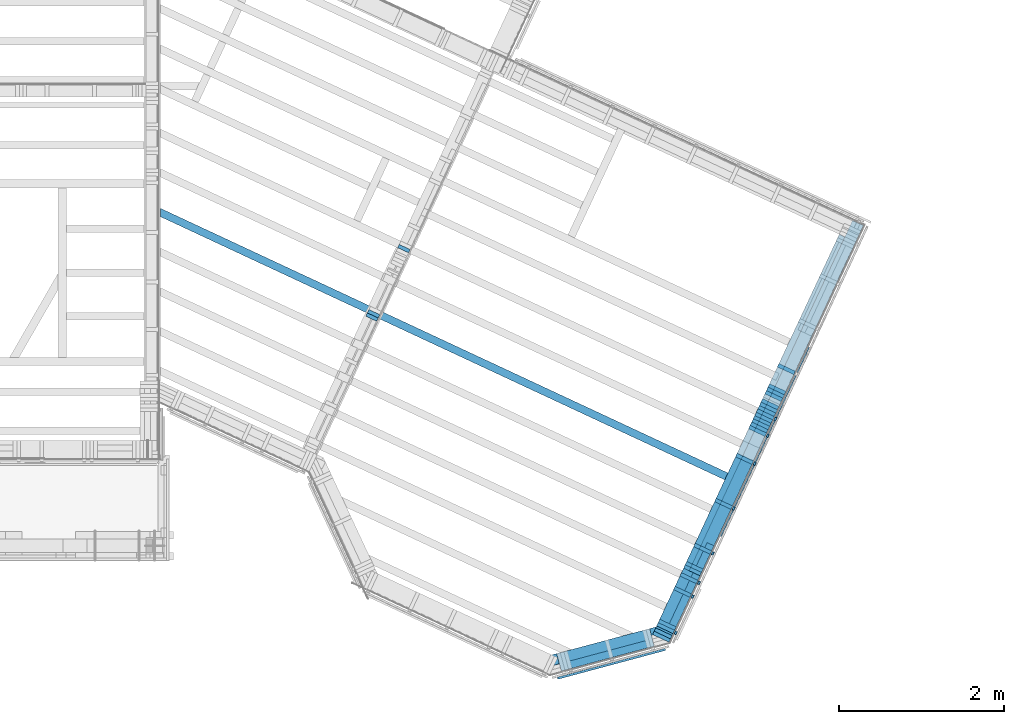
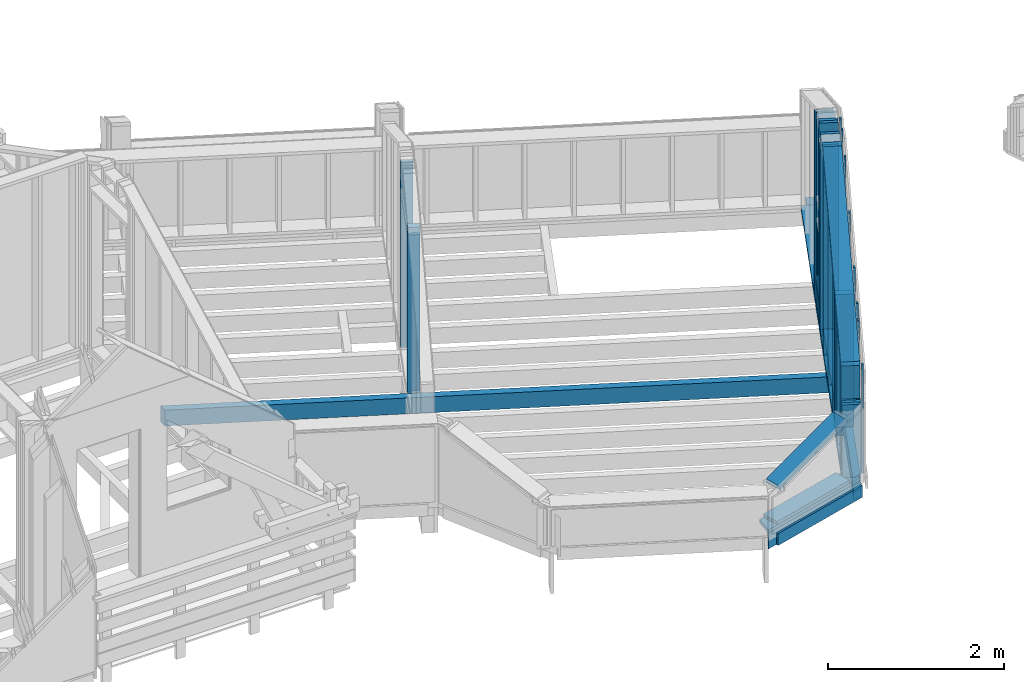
# One storey, part 8 of 24: 48 members.
"""IFC2X3 building model written with IfcOpenShell, lengths in metres."""

from ifc_helpers import new_model, si_unit, direction, frame, origin_with_axes, place, context, subcontext, project, spatial, faceted_brep, material, element, save


model = new_model("IFC2X3")

# Units and contexts
model_context = context("Model", 3, precision=1e-06, world=origin_with_axes(), true_north=direction((0.0, 1.0, 0.0)))
body_context = subcontext(model_context, "Body", "Model", "MODEL_VIEW")
ifc_project = project(units=[si_unit("LENGTHUNIT", "METRE"), si_unit("AREAUNIT", "SQUARE_METRE"), si_unit("VOLUMEUNIT", "CUBIC_METRE"), si_unit("PLANEANGLEUNIT", "RADIAN")], contexts=[model_context])

# Site, building, storey
site_placement = place(None, origin_with_axes())
site = spatial("IfcSite", under=ifc_project, at=site_placement, CompositionType="ELEMENT")
building_placement = place(site_placement, origin_with_axes())
building = spatial("IfcBuilding", under=site, at=building_placement, Name="Building 1", CompositionType="ELEMENT")
storey_placement = place(building_placement, origin_with_axes())
storey = spatial("IfcBuildingStorey", under=building, at=storey_placement, Name="Premier Etage", CompositionType="ELEMENT", Elevation=0.0)

# Members
ifc_material_1 = material(Name="Epicéa C24")
member_1_placement = place(storey_placement, frame((13.956408, 1.4464517, 5.6943053), z_axis=(0.9063078, -0.4226183, 0.0), x_axis=(0.0, 0.0, -1.0)))
element("IfcMember", 1, at=member_1_placement, inside=storey, material=ifc_material_1, Name="Montant", context=body_context, shape_type="Brep", body=[
    faceted_brep([(2.7993053, -0.0225, -0.11), (2.7993053, 0.0225, -0.11), (2.7993053, 0.0225, 0.11), (2.7993053, -0.0225, 0.11), (0.0, -0.0225, 0.11), (0.0, -0.0225, -0.11), (0.0, 0.0225, -0.11), (0.0, 0.0225, 0.11)], [[[0, 1, 2, 3]], [[0, 3, 4, 5]], [[1, 0, 5, 6]], [[2, 1, 6, 7]], [[3, 2, 7, 4]], [[4, 7, 6, 5]]]),
])
member_2_placement = place(storey_placement, frame((14.1913356, 1.9502556, 5.6183459), z_axis=(0.9063078, -0.4226183, 0.0), x_axis=(0.0, 0.0, -1.0)))
element("IfcMember", 2, at=member_2_placement, inside=storey, material=ifc_material_1, Name="Montant", context=body_context, shape_type="Brep", body=[
    faceted_brep([(0.0, -0.0225, -0.11), (0.0, -0.0225, 0.11), (0.0259808, 0.0225, 0.11), (0.0259808, 0.0225, -0.11), (2.7233459, -0.0225, 0.11), (2.7233459, 0.0225, 0.11), (2.7233459, -0.0225, -0.11), (2.7233459, 0.0225, -0.11)], [[[0, 1, 2, 3]], [[2, 1, 4, 5]], [[1, 0, 6, 4]], [[6, 7, 5, 4]], [[0, 3, 7, 6]], [[3, 2, 5, 7]]]),
])
member_3_placement = place(storey_placement, frame((12.8281718, -0.9730585, 3.8586408), z_axis=(0.9063078, -0.4226183, 0.0), x_axis=(0.0, 0.0, -1.0)))
element("IfcMember", 3, at=member_3_placement, inside=storey, material=ifc_material_1, Name="Montant", context=body_context, shape_type="Brep", body=[
    faceted_brep([(0.0, -0.0125954, 0.11), (1.0086408, -0.0125954, 0.11), (1.0086408, 0.0125954, 0.11), (0.0, 0.0125954, 0.11), (0.0, 0.0125954, -0.11), (1.0086408, 0.0125954, -0.11), (1.0086408, -0.0125954, -0.11), (0.0, -0.0125954, -0.11)], [[[0, 1, 2, 3]], [[4, 3, 2, 5]], [[6, 7, 4, 5]], [[1, 6, 5, 2]], [[0, 7, 6, 1]], [[7, 0, 3, 4]]]),
])
member_4_placement = place(storey_placement, frame((14.1532999, 1.8686879, 4.1103223), z_axis=(0.9063078, -0.4226183, 0.0), x_axis=(0.0, 0.0, -1.0)))
element("IfcMember", 4, at=member_4_placement, inside=storey, material=ifc_material_1, Name="Montant", context=body_context, shape_type="Brep", body=[
    faceted_brep([(0.0, -0.0225, -0.11), (0.0, -0.0225, 0.11), (0.0, 0.0225, 0.11), (0.0, 0.0225, -0.11), (1.2153223, -0.0225, 0.11), (1.2153223, 0.0225, 0.11), (1.2153223, -0.0225, -0.11), (1.2153223, 0.0225, -0.11)], [[[0, 1, 2, 3]], [[2, 1, 4, 5]], [[1, 0, 6, 4]], [[6, 7, 5, 4]], [[0, 3, 7, 6]], [[3, 2, 5, 7]]]),
])
member_5_placement = place(storey_placement, frame((13.5446808, 0.5634999, 5.2491602), z_axis=(0.9063078, -0.4226183, 0.0), x_axis=(0.0, 0.0, -1.0)))
element("IfcMember", 5, at=member_5_placement, inside=storey, material=ifc_material_1, Name="Montant", context=body_context, shape_type="Brep", body=[
    faceted_brep([(0.0259808, -0.0225, -0.11), (0.0259808, -0.0225, 0.11), (0.0, 0.0225, 0.11), (0.0, 0.0225, -0.11), (2.3541602, -0.0225, 0.11), (2.3541602, 0.0225, 0.11), (2.3541602, -0.0225, -0.11), (2.3541602, 0.0225, -0.11)], [[[0, 1, 2, 3]], [[2, 1, 4, 5]], [[1, 0, 6, 4]], [[6, 7, 5, 4]], [[0, 3, 7, 6]], [[3, 2, 5, 7]]]),
])
member_6_placement = place(storey_placement, frame((12.8334949, -0.9616432, 2.8725), z_axis=(-0.9063078, 0.4226183, 0.0), x_axis=(0.4226183, 0.9063078, 0.0)))
element("IfcMember", 6, at=member_6_placement, inside=storey, material=ifc_material_1, Name="Montant", context=body_context, shape_type="Brep", body=[
    faceted_brep([(0.0, 0.0225, -0.11), (5.2330115, 0.0225, -0.11), (5.2330115, -0.0225, -0.11), (0.0, -0.0225, -0.11), (5.2330115, -0.0225, 0.11), (0.0, -0.0225, 0.11), (5.2330115, 0.0225, 0.11), (0.0, 0.0225, 0.11)], [[[0, 1, 2, 3]], [[3, 2, 4, 5]], [[4, 2, 1, 6]], [[7, 6, 1, 0]], [[5, 4, 6, 7]], [[5, 7, 0, 3]]]),
])
member_7_placement = place(storey_placement, frame((14.0688244, 1.6875296, 5.6943053), z_axis=(0.9063078, -0.4226183, 0.0), x_axis=(0.0, 0.0, -1.0)))
element("IfcMember", 7, at=member_7_placement, inside=storey, material=ifc_material_1, Name="Montant", context=body_context, shape_type="Brep", body=[
    faceted_brep([(2.7993053, -0.0225, -0.11), (2.7993053, 0.0225, -0.11), (2.7993053, 0.0225, 0.11), (2.7993053, -0.0225, 0.11), (0.0, -0.0225, 0.11), (0.0, -0.0225, -0.11), (0.0, 0.0225, -0.11), (0.0, 0.0225, 0.11)], [[[0, 1, 2, 3]], [[0, 3, 4, 5]], [[1, 0, 5, 6]], [[2, 1, 6, 7]], [[3, 2, 7, 4]], [[4, 7, 6, 5]]]),
])
member_8_placement = place(storey_placement, frame((9.6745801, 3.6532944, 5.4693053), z_axis=(0.9063078, -0.4226183, 0.0), x_axis=(0.0, 0.0, -1.0)))
element("IfcMember", 8, at=member_8_placement, inside=storey, material=ifc_material_1, Name="Montant", context=body_context, shape_type="Brep", body=[
    faceted_brep([(2.5743053, -0.0225, -0.0725), (2.5743053, 0.0225, -0.0725), (2.5743053, 0.0225, 0.0725), (2.5743053, -0.0225, 0.0725), (0.0, -0.0225, 0.0725), (0.0, -0.0225, -0.0725), (0.0, 0.0225, -0.0725), (0.0, 0.0225, 0.0725)], [[[0, 1, 2, 3]], [[0, 3, 4, 5]], [[1, 0, 5, 6]], [[2, 1, 6, 7]], [[3, 2, 7, 4]], [[4, 7, 6, 5]]]),
])
member_9_placement = place(storey_placement, frame((13.4134614, -0.0373383, 4.9301742), z_axis=(0.9063078, -0.4226183, 0.0), x_axis=(0.0, 0.0, -1.0)))
element("IfcMember", 9, at=member_9_placement, inside=storey, material=ifc_material_1, Name="latte 27/40", context=body_context, shape_type="Brep", body=[
    faceted_brep([(1.1938921, 0.02, -0.012), (1.1938921, 0.02, 0.012), (1.1938921, -0.02, 0.012), (1.1938921, -0.02, -0.012), (0.0, 0.02, 0.012), (0.0, 0.02, -0.012), (0.0, -0.02, -0.012), (0.0, -0.02, 0.012)], [[[0, 1, 2, 3]], [[4, 5, 6, 7]], [[3, 6, 5, 0]], [[2, 7, 6, 3]], [[1, 4, 7, 2]], [[0, 5, 4, 1]]]),
])
member_10_placement = place(storey_placement, frame((13.2911098, 0.0197152, 4.90275), z_axis=(0.9063078, -0.4226183, 0.0), x_axis=(0.0, 0.0, -1.0)))
element("IfcMember", 10, at=member_10_placement, inside=storey, material=ifc_material_1, Name="Montant", context=body_context, shape_type="Brep", body=[
    faceted_brep([(2.00775, -0.0225, 0.11), (2.00775, 0.0225, 0.11), (0.0, 0.0225, 0.11), (0.0259808, -0.0225, 0.11), (0.0259808, -0.0225, -0.11), (0.0, 0.0225, -0.11), (2.00775, -0.0225, -0.11), (2.00775, 0.0225, -0.11)], [[[0, 1, 2, 3]], [[4, 3, 2, 5]], [[3, 4, 6, 0]], [[6, 7, 1, 0]], [[4, 5, 7, 6]], [[5, 2, 1, 7]]]),
])
ifc_material_2 = material(Name="NH II")
member_11_placement = place(storey_placement, frame((13.3674842, 0.0841201, 2.665), z_axis=(0.0, 0.0, -1.0), x_axis=(0.4226183, 0.9063078, 0.0)))
element("IfcMember", 11, at=member_11_placement, inside=storey, material=ifc_material_2, Name="Poutre Lc", context=body_context, shape_type="Brep", body=[
    faceted_brep([(2.7998241, -0.1, -0.14), (2.7998241, -0.1, 0.14), (0.0, -0.1, 0.14), (0.0, -0.1, -0.14), (2.7998241, 0.08, -0.14), (0.0, 0.08, -0.14), (0.135, 0.08, -0.14), (0.135, 0.1, -0.14), (2.6648241, 0.1, -0.14), (2.6648241, 0.08, -0.14), (0.0, 0.08, 0.14), (0.135, 0.08, 0.14), (2.7998241, 0.08, 0.14), (2.6648241, 0.08, 0.14), (2.6648241, 0.1, 0.14), (0.135, 0.1, 0.14)], [[[0, 1, 2, 3]], [[4, 0, 3, 5, 6, 7, 8, 9]], [[5, 10, 11, 6]], [[1, 12, 13, 14, 15, 11, 10, 2]], [[12, 4, 9, 13]], [[14, 8, 7, 15]], [[9, 8, 14, 13]], [[7, 6, 11, 15]], [[12, 1, 0, 4]], [[2, 10, 5, 3]]]),
])
member_12_placement = place(storey_placement, frame((14.0878422, 1.7283134, 4.1103223), z_axis=(0.9063078, -0.4226183, 0.0), x_axis=(0.0, 0.0, -1.0)))
element("IfcMember", 12, at=member_12_placement, inside=storey, material=ifc_material_1, Name="Montant", context=body_context, shape_type="Brep", body=[
    faceted_brep([(0.0, -0.0225, -0.11), (0.0, -0.0225, 0.11), (0.0, 0.0225, 0.11), (0.0, 0.0225, -0.11), (1.2153223, -0.0225, 0.11), (1.2153223, 0.0225, 0.11), (1.2153223, -0.0225, -0.11), (1.2153223, 0.0225, -0.11)], [[[0, 1, 2, 3]], [[2, 1, 4, 5]], [[1, 0, 6, 4]], [[6, 7, 5, 4]], [[0, 3, 7, 6]], [[3, 2, 5, 7]]]),
])
member_13_placement = place(storey_placement, frame((14.0498066, 1.6467457, 5.6943053), z_axis=(0.9063078, -0.4226183, 0.0), x_axis=(0.0, 0.0, -1.0)))
element("IfcMember", 13, at=member_13_placement, inside=storey, material=ifc_material_1, Name="Montant", context=body_context, shape_type="Brep", body=[
    faceted_brep([(2.7993053, -0.0225, -0.11), (2.7993053, 0.0225, -0.11), (2.7993053, 0.0225, 0.11), (2.7993053, -0.0225, 0.11), (0.0, -0.0225, 0.11), (0.0, -0.0225, -0.11), (0.0, 0.0225, -0.11), (0.0, 0.0225, 0.11)], [[[0, 1, 2, 3]], [[0, 3, 4, 5]], [[1, 0, 5, 6]], [[2, 1, 6, 7]], [[3, 2, 7, 4]], [[4, 7, 6, 5]]]),
])
member_14_placement = place(storey_placement, frame((13.047893, -0.5018649, 4.570485), z_axis=(0.9063078, -0.4226183, 0.0), x_axis=(0.0, 0.0, -1.0)))
element("IfcMember", 14, at=member_14_placement, inside=storey, material=ifc_material_1, Name="Montant", context=body_context, shape_type="Brep", body=[
    faceted_brep([(0.0259808, -0.0225, -0.11), (0.0259808, -0.0225, 0.11), (0.0, 0.0225, 0.11), (0.0, 0.0225, -0.11), (1.675485, -0.0225, 0.11), (1.675485, 0.0225, 0.11), (1.675485, -0.0225, -0.11), (1.675485, 0.0225, -0.11)], [[[0, 1, 2, 3]], [[2, 1, 4, 5]], [[1, 0, 6, 4]], [[6, 7, 5, 4]], [[0, 3, 7, 6]], [[3, 2, 5, 7]]]),
])
member_15_placement = place(storey_placement, frame((11.4153503, -1.3923085, 2.8275), z_axis=(0.258819, -0.9659258, 0.0), x_axis=(0.9659258, 0.258819, 0.0)))
element("IfcMember", 15, at=member_15_placement, inside=storey, material=ifc_material_1, Name="Lisse basse", context=body_context, shape_type="Brep", body=[
    faceted_brep([(0.0, 0.0225, 0.11), (0.0800735, 0.0225, -0.11), (0.0800735, -0.0225, -0.11), (0.0, -0.0225, 0.11), (1.3889208, 0.0225, -0.11), (1.3889208, -0.0225, -0.11), (1.4915085, 0.0225, 0.11), (1.4915085, -0.0225, 0.11)], [[[0, 1, 2, 3]], [[2, 1, 4, 5]], [[1, 0, 6, 4]], [[6, 7, 5, 4]], [[3, 2, 5, 7]], [[6, 0, 3, 7]]]),
])
member_16_placement = place(storey_placement, frame((13.1883955, -0.2005562, 4.7624293), z_axis=(0.9063078, -0.4226183, 0.0), x_axis=(0.0, 0.0, -1.0)))
element("IfcMember", 16, at=member_16_placement, inside=storey, material=ifc_material_1, Name="Montant", context=body_context, shape_type="Brep", body=[
    faceted_brep([(0.0, 0.0225, -0.11), (0.0259808, -0.0225, -0.11), (0.0259808, -0.0225, 0.11), (0.0, 0.0225, 0.11), (1.8674293, -0.0225, -0.11), (1.8674293, -0.0225, 0.11), (1.8674293, 0.0225, -0.11), (1.8674293, 0.0225, 0.11)], [[[0, 1, 2, 3]], [[2, 1, 4, 5]], [[1, 0, 6, 4]], [[0, 3, 7, 6]], [[3, 2, 5, 7]], [[4, 6, 7, 5]]]),
])
member_17_placement = place(storey_placement, frame((13.9944436, 1.5280194, 5.4543053), z_axis=(0.9063078, -0.4226183, 0.0), x_axis=(0.0, 0.0, -1.0)))
element("IfcMember", 17, at=member_17_placement, inside=storey, material=ifc_material_1, Name="Montant", context=body_context, shape_type="Brep", body=[
    faceted_brep([(2.5593053, -0.0225, 0.11), (2.5593053, -0.0225, -0.11), (2.5593053, 0.0225, -0.11), (2.5593053, 0.0225, 0.11), (0.0, -0.0225, -0.11), (0.0, 0.0225, -0.11), (0.0, -0.0225, 0.11), (0.0, 0.0225, 0.11)], [[[0, 1, 2, 3]], [[2, 1, 4, 5]], [[1, 0, 6, 4]], [[3, 2, 5, 7]], [[0, 3, 7, 6]], [[6, 7, 5, 4]]]),
])
member_18_placement = place(storey_placement, frame((14.1068601, 1.7690973, 4.1103223), z_axis=(0.9063078, -0.4226183, 0.0), x_axis=(0.0, 0.0, -1.0)))
element("IfcMember", 18, at=member_18_placement, inside=storey, material=ifc_material_1, Name="Montant", context=body_context, shape_type="Brep", body=[
    faceted_brep([(0.0, -0.0225, -0.11), (0.0, -0.0225, 0.11), (0.0, 0.0225, 0.11), (0.0, 0.0225, -0.11), (1.2153223, -0.0225, 0.11), (1.2153223, 0.0225, 0.11), (1.2153223, -0.0225, -0.11), (1.2153223, 0.0225, -0.11)], [[[0, 1, 2, 3]], [[2, 1, 4, 5]], [[1, 0, 6, 4]], [[6, 7, 5, 4]], [[0, 3, 7, 6]], [[3, 2, 5, 7]]]),
])
member_19_placement = place(storey_placement, frame((11.4319148, -1.4541277, 2.695), z_axis=(0.0, 0.0, -1.0), x_axis=(0.9659258, 0.258819, 0.0)))
element("IfcMember", 19, at=member_19_placement, inside=storey, material=ifc_material_2, Name="Ceinture", context=body_context, shape_type="Brep", body=[
    faceted_brep([(1.371411, 0.046, 0.0), (1.4486082, -0.046, 0.0), (1.5687056, -0.046, 0.0), (1.4915085, 0.046, 0.0), (1.4486082, -0.046, 0.11), (1.371411, 0.046, 0.11), (1.4915085, 0.046, -0.11), (0.0, 0.046, -0.11), (0.0, 0.046, 0.11), (1.5687056, -0.046, -0.11), (0.0771972, -0.046, -0.11), (0.0771972, -0.046, 0.11)], [[[0, 1, 2, 3]], [[4, 1, 0, 5]], [[5, 0, 3, 6, 7, 8]], [[3, 2, 9, 6]], [[6, 9, 10, 7]], [[1, 4, 11, 10, 9, 2]], [[4, 5, 8, 11]], [[11, 8, 7, 10]]]),
])
member_20_placement = place(storey_placement, frame((13.1248126, -0.3369103, 4.6755669), z_axis=(0.9063078, -0.4226183, 0.0), x_axis=(0.0, 0.0, -1.0)))
element("IfcMember", 20, at=member_20_placement, inside=storey, material=ifc_material_1, Name="Montant", context=body_context, shape_type="Brep", body=[
    faceted_brep([(0.0, 0.0225, -0.11), (0.0259808, -0.0225, -0.11), (0.0259808, -0.0225, 0.11), (0.0, 0.0225, 0.11), (1.7805669, -0.0225, -0.11), (1.7805669, -0.0225, 0.11), (1.7805669, 0.0225, -0.11), (1.7805669, 0.0225, 0.11)], [[[0, 1, 2, 3]], [[2, 1, 4, 5]], [[1, 0, 6, 4]], [[0, 3, 7, 6]], [[3, 2, 5, 7]], [[4, 6, 7, 5]]]),
])
member_21_placement = place(storey_placement, frame((12.8101919, -1.1630535, 2.695), z_axis=(0.0, 0.0, -1.0), x_axis=(0.4226183, 0.9063078, 0.0)))
element("IfcMember", 21, at=member_21_placement, inside=storey, material=ifc_material_2, Name="Ceinture", context=body_context, shape_type="Brep", body=[
    faceted_brep([(0.1200975, -0.046, -0.11), (0.1200975, -0.046, 0.0), (0.1972946, 0.046, 0.0), (0.1972946, 0.046, -0.11), (0.0, -0.046, 0.0), (0.0771972, 0.046, 0.0), (1.273845, -0.046, -0.11), (1.273845, -0.046, 0.0), (1.365845, -0.046, 0.0), (1.365845, -0.046, 0.11), (0.0, -0.046, 0.11), (1.273845, 0.046, -0.11), (1.273845, 0.046, 0.0), (1.365845, 0.046, 0.0), (1.365845, 0.046, 0.11), (0.0771972, 0.046, 0.11)], [[[0, 1, 2, 3]], [[1, 4, 5, 2]], [[4, 1, 0, 6, 7, 8, 9, 10]], [[0, 3, 11, 6]], [[6, 11, 12, 7]], [[8, 7, 12, 13]], [[8, 13, 14, 9]], [[2, 5, 15, 14, 13, 12, 11, 3]], [[9, 14, 15, 10]], [[5, 4, 10, 15]]]),
])
member_22_placement = place(storey_placement, frame((11.5878501, -1.3460873, 3.331884), z_axis=(-0.258819, 0.9659258, 0.0), x_axis=(0.9055763, 0.2426485, 0.347927)))
element("IfcMember", 22, at=member_22_placement, inside=storey, material=ifc_material_1, Name="Montant", context=body_context, shape_type="Brep", body=[
    faceted_brep([(0.0, 0.0225, 0.11), (0.0, 0.0225, -0.11), (0.0167001, -0.0225, -0.11), (0.0167001, -0.0225, 0.11), (1.1466402, 0.0225, -0.11), (1.1633403, -0.0225, -0.11), (1.1466402, 0.0225, 0.11), (1.1633403, -0.0225, 0.11)], [[[0, 1, 2, 3]], [[2, 1, 4, 5]], [[1, 0, 6, 4]], [[5, 4, 6, 7]], [[3, 2, 5, 7]], [[0, 3, 7, 6]]]),
])
member_23_placement = place(storey_placement, frame((12.7848131, -1.0660415, 2.8275), z_axis=(0.9063078, -0.4226183, 0.0), x_axis=(0.4226183, 0.9063078, 0.0)))
element("IfcMember", 23, at=member_23_placement, inside=storey, material=ifc_material_1, Name="Lisse basse", context=body_context, shape_type="Brep", body=[
    faceted_brep([(0.8874573, -0.0225, -0.11), (0.8874573, 0.0225, -0.11), (0.8874573, 0.0225, 0.11), (0.8874573, -0.0225, 0.11), (0.1025877, 0.0225, -0.11), (0.0, 0.0225, 0.11), (0.1025877, -0.0225, -0.11), (0.0, -0.0225, 0.11)], [[[0, 1, 2, 3]], [[2, 1, 4, 5]], [[1, 0, 6, 4]], [[5, 4, 6, 7]], [[3, 2, 5, 7]], [[0, 3, 7, 6]]]),
])
member_24_placement = place(storey_placement, frame((11.5519451, -1.355708, 2.8725), z_axis=(-0.258819, 0.9659258, 0.0), x_axis=(0.9659258, 0.258819, 0.0)))
element("IfcMember", 24, at=member_24_placement, inside=storey, material=ifc_material_1, Name="Montant", context=body_context, shape_type="Brep", body=[
    faceted_brep([(1.165, 0.0225, 0.11), (1.165, -0.0225, 0.11), (1.165, -0.0225, -0.11), (1.165, 0.0225, -0.11), (0.0, -0.0225, -0.11), (0.0, -0.0225, 0.11), (0.0, 0.0225, -0.11), (0.0, 0.0225, 0.11)], [[[0, 1, 2, 3]], [[4, 2, 1, 5]], [[6, 3, 2, 4]], [[7, 0, 3, 6]], [[5, 1, 0, 7]], [[5, 7, 6, 4]]]),
])
member_25_placement = place(storey_placement, frame((13.1702445, -0.5589184, 4.5979091), z_axis=(0.9063078, -0.4226183, 0.0), x_axis=(0.0, 0.0, -1.0)))
element("IfcMember", 25, at=member_25_placement, inside=storey, material=ifc_material_1, Name="latte 27/40", context=body_context, shape_type="Brep", body=[
    faceted_brep([(1.7879091, 0.02, -0.012), (1.7879091, 0.02, 0.012), (1.7879091, -0.02, 0.012), (1.7879091, -0.02, -0.012), (0.0, 0.02, 0.012), (0.0, 0.02, -0.012), (0.0, -0.02, -0.012), (0.0, -0.02, 0.012)], [[[0, 1, 2, 3]], [[4, 5, 6, 7]], [[3, 6, 5, 0]], [[2, 7, 6, 3]], [[1, 4, 7, 2]], [[0, 5, 4, 1]]]),
])
member_26_placement = place(storey_placement, frame((12.794322, -1.0456496, 3.8586408), z_axis=(0.9063078, -0.4226183, 0.0), x_axis=(0.0, 0.0, -1.0)))
element("IfcMember", 26, at=member_26_placement, inside=storey, material=ifc_material_1, Name="Montant", context=body_context, shape_type="Brep", body=[
    faceted_brep([(0.0, -0.0225, 0.11), (0.0, -0.0225, -0.11), (1.0086408, -0.0225, -0.11), (1.0086408, -0.0225, 0.11), (0.0, 0.0225, 0.11), (1.0086408, 0.0225, 0.11), (0.0, 0.0225, -0.11), (1.0086408, 0.0225, -0.11)], [[[0, 1, 2, 3]], [[4, 0, 3, 5]], [[6, 4, 5, 7]], [[1, 6, 7, 2]], [[0, 4, 6, 1]], [[2, 7, 5, 3]]]),
])
member_27_placement = place(storey_placement, frame((14.0126162, 1.5669907, 5.4543053), z_axis=(0.9063078, -0.4226183, 0.0), x_axis=(0.0, 0.0, -1.0)))
element("IfcMember", 27, at=member_27_placement, inside=storey, material=ifc_material_1, Name="Montant", context=body_context, shape_type="Brep", body=[
    faceted_brep([(2.5593053, -0.0205, -0.11), (2.5593053, -0.0205, 0.11), (0.0, -0.0205, 0.11), (0.0, -0.0205, -0.11), (2.5593053, 0.0205, 0.11), (0.0, 0.0205, 0.11), (2.5593053, 0.0205, -0.11), (0.0, 0.0205, -0.11)], [[[0, 1, 2, 3]], [[2, 1, 4, 5]], [[1, 0, 6, 4]], [[0, 3, 7, 6]], [[4, 6, 7, 5]], [[3, 2, 5, 7]]]),
])
for number, where, z_axis, x_axis, name in (
    (28, (13.9754258, 1.4872356, 5.4543053), (0.9063078, -0.4226183, 0.0), (0.0, 0.0, -1.0), "Montant"),
    (29, (14.0307888, 1.6059619, 5.4543053), (0.9063078, -0.4226183, 0.0), (0.0, 0.0, -1.0), "Montant"),
):
    element("IfcMember", number, at=place(storey_placement, frame(where, z_axis=z_axis, x_axis=x_axis)), inside=storey, material=ifc_material_1, Name=name, context=body_context, shape_type="Brep", body=[
        faceted_brep([(2.5593053, -0.0225, 0.11), (2.5593053, -0.0225, -0.11), (2.5593053, 0.0225, -0.11), (2.5593053, 0.0225, 0.11), (0.0, -0.0225, -0.11), (0.0, 0.0225, -0.11), (0.0, -0.0225, 0.11), (0.0, 0.0225, 0.11)], [[[0, 1, 2, 3]], [[2, 1, 4, 5]], [[1, 0, 6, 4]], [[3, 2, 5, 7]], [[0, 3, 7, 6]], [[6, 7, 5, 4]]]),
    ])
member_28_placement = place(storey_placement, frame((14.1723177, 1.9094717, 4.1103223), z_axis=(0.9063078, -0.4226183, 0.0), x_axis=(0.0, 0.0, -1.0)))
element("IfcMember", 30, at=member_28_placement, inside=storey, material=ifc_material_1, Name="Montant", context=body_context, shape_type="Brep", body=[
    faceted_brep([(0.0, -0.0225, -0.11), (0.0, -0.0225, 0.11), (0.0, 0.0225, 0.11), (0.0, 0.0225, -0.11), (1.2153223, -0.0225, 0.11), (1.2153223, 0.0225, 0.11), (1.2153223, -0.0225, -0.11), (1.2153223, 0.0225, -0.11)], [[[0, 1, 2, 3]], [[2, 1, 4, 5]], [[1, 0, 6, 4]], [[6, 7, 5, 4]], [[0, 3, 7, 6]], [[3, 2, 5, 7]]]),
])
member_29_placement = place(storey_placement, frame((14.3053936, 2.1948539, 5.4625281), z_axis=(0.9063078, -0.4226183, 0.0), x_axis=(0.0, 0.0, -1.0)))
element("IfcMember", 31, at=member_29_placement, inside=storey, material=ifc_material_1, Name="Montant", context=body_context, shape_type="Brep", body=[
    faceted_brep([(2.5675281, -0.0225, 0.11), (2.5675281, 0.0225, 0.11), (0.0259808, 0.0225, 0.11), (0.0, -0.0225, 0.11), (0.0, -0.0225, -0.11), (0.0259808, 0.0225, -0.11), (2.5675281, -0.0225, -0.11), (2.5675281, 0.0225, -0.11)], [[[0, 1, 2, 3]], [[4, 3, 2, 5]], [[3, 4, 6, 0]], [[6, 7, 1, 0]], [[4, 5, 7, 6]], [[5, 2, 1, 7]]]),
])
member_30_placement = place(storey_placement, frame((13.2471641, -0.3939638, 4.702991), z_axis=(0.9063078, -0.4226183, 0.0), x_axis=(0.0, 0.0, -1.0)))
element("IfcMember", 32, at=member_30_placement, inside=storey, material=ifc_material_1, Name="latte 27/40", context=body_context, shape_type="Brep", body=[
    faceted_brep([(1.892991, 0.02, -0.012), (1.892991, 0.02, 0.012), (1.892991, -0.02, 0.012), (1.892991, -0.02, -0.012), (0.0, 0.02, 0.012), (0.0, 0.02, -0.012), (0.0, -0.02, -0.012), (0.0, -0.02, 0.012)], [[[0, 1, 2, 3]], [[4, 5, 6, 7]], [[3, 6, 5, 0]], [[2, 7, 6, 3]], [[1, 4, 7, 2]], [[0, 5, 4, 1]]]),
])
member_31_placement = place(storey_placement, frame((13.9206033, 1.0502311, 5.6229945), z_axis=(0.9063078, -0.4226183, 0.0), x_axis=(0.0, 0.0, -1.0)))
element("IfcMember", 33, at=member_31_placement, inside=storey, material=ifc_material_1, Name="latte 27/40", context=body_context, shape_type="Brep", body=[
    faceted_brep([(1.258804, 0.02, -0.012), (1.258804, 0.02, 0.012), (1.258804, -0.02, 0.012), (1.258804, -0.02, -0.012), (0.0, 0.02, 0.012), (0.0, 0.02, -0.012), (0.0, -0.02, -0.012), (0.0, -0.02, 0.012)], [[[0, 1, 2, 3]], [[4, 5, 6, 7]], [[3, 6, 5, 0]], [[2, 7, 6, 3]], [[1, 4, 7, 2]], [[0, 5, 4, 1]]]),
])
member_32_placement = place(storey_placement, frame((11.5338649, -1.5484552, 2.7225), z_axis=(0.0, 0.0, -1.0), x_axis=(0.9659258, 0.258819, 0.0)))
element("IfcMember", 34, at=member_32_placement, inside=storey, material=ifc_material_2, Name="contre poutre", context=body_context, shape_type="Brep", body=[
    faceted_brep([(1.3520821, 0.0135, -0.0825), (1.3520821, 0.0135, 0.0825), (1.3520821, -0.0135, 0.0825), (1.3520821, -0.0135, -0.0825), (0.0, 0.0135, 0.0825), (0.0, 0.0135, -0.0825), (0.0, -0.0135, -0.0825), (0.0, -0.0135, 0.0825)], [[[0, 1, 2, 3]], [[4, 5, 6, 7]], [[3, 6, 5, 0]], [[2, 7, 6, 3]], [[1, 4, 7, 2]], [[0, 5, 4, 1]]]),
])
member_33_placement = place(storey_placement, frame((14.0787595, 1.3893983, 5.7393053), z_axis=(0.9063078, -0.4226183, 0.0), x_axis=(0.0, 0.0, -1.0)))
element("IfcMember", 35, at=member_33_placement, inside=storey, material=ifc_material_1, Name="latte 27/40", context=body_context, shape_type="Brep", body=[
    faceted_brep([(1.1792965, 0.02, -0.012), (1.1792965, 0.02, 0.012), (1.1792965, -0.02, 0.012), (1.1792965, -0.02, -0.012), (0.0, 0.02, 0.012), (0.0, 0.02, -0.012), (0.0, -0.02, -0.012), (0.0, -0.02, 0.012)], [[[0, 1, 2, 3]], [[4, 5, 6, 7]], [[3, 6, 5, 0]], [[2, 7, 6, 3]], [[1, 4, 7, 2]], [[0, 5, 4, 1]]]),
])
member_34_placement = place(storey_placement, frame((12.9653553, -0.9983047, 4.3180044), z_axis=(0.9063078, -0.4226183, 0.0), x_axis=(0.0, 0.0, -1.0)))
element("IfcMember", 36, at=member_34_placement, inside=storey, material=ifc_material_1, Name="latte 27/40", context=body_context, shape_type="Brep", body=[
    faceted_brep([(1.5080044, 0.02, -0.012), (1.5080044, 0.02, 0.012), (1.5080044, -0.02, 0.012), (1.5080044, -0.02, -0.012), (0.0, 0.02, 0.012), (0.0, 0.02, -0.012), (0.0, -0.02, -0.012), (0.0, -0.02, 0.012)], [[[0, 1, 2, 3]], [[4, 5, 6, 7]], [[3, 6, 5, 0]], [[2, 7, 6, 3]], [[1, 4, 7, 2]], [[0, 5, 4, 1]]]),
])
member_35_placement = place(storey_placement, frame((12.8430038, -0.9412512, 4.3425418), z_axis=(0.9063078, -0.4226183, 0.0), x_axis=(0.0, 0.0, -1.0)))
element("IfcMember", 37, at=member_35_placement, inside=storey, material=ifc_material_1, Name="Montant", context=body_context, shape_type="Brep", body=[
    faceted_brep([(0.0259808, -0.0225, -0.11), (0.0259808, -0.0225, 0.11), (0.0, 0.0225, 0.11), (0.0, 0.0225, -0.11), (1.4475418, -0.0225, 0.11), (1.4475418, 0.0225, 0.11), (1.4475418, -0.0225, -0.11), (1.4475418, 0.0225, -0.11)], [[[0, 1, 2, 3]], [[2, 1, 4, 5]], [[1, 0, 6, 4]], [[0, 3, 7, 6]], [[3, 2, 5, 7]], [[6, 7, 5, 4]]]),
])
member_36_placement = place(storey_placement, frame((12.8620216, -0.9004674, 4.316561), z_axis=(0.9063078, -0.4226183, 0.0), x_axis=(0.0, 0.0, -1.0)))
element("IfcMember", 38, at=member_36_placement, inside=storey, material=ifc_material_1, Name="Montant", context=body_context, shape_type="Brep", body=[
    faceted_brep([(0.0, 0.0225, -0.11), (0.0259808, -0.0225, -0.11), (0.0259808, -0.0225, 0.11), (0.0, 0.0225, 0.11), (1.421561, -0.0225, -0.11), (1.421561, -0.0225, 0.11), (1.421561, 0.0225, -0.11), (1.421526, 0.0225, 0.11)], [[[0, 1, 2, 3]], [[2, 1, 4, 5]], [[1, 0, 6, 4]], [[0, 3, 7, 6]], [[3, 2, 5, 7]], [[4, 6, 7, 5]]]),
])
member_37_placement = place(storey_placement, frame((12.8133399, -1.0048657, 3.8586408), z_axis=(0.9063078, -0.4226183, 0.0), x_axis=(0.0, 0.0, -1.0)))
element("IfcMember", 39, at=member_37_placement, inside=storey, material=ifc_material_1, Name="Montant", context=body_context, shape_type="Brep", body=[
    faceted_brep([(0.0, -0.0225, 0.11), (0.0, -0.0225, -0.11), (1.0086408, -0.0225, -0.11), (1.0086408, -0.0225, 0.11), (0.0, 0.0225, 0.11), (1.0086408, 0.0225, 0.11), (0.0, 0.0225, -0.11), (1.0086408, 0.0225, -0.11)], [[[0, 1, 2, 3]], [[4, 0, 3, 5]], [[6, 4, 5, 7]], [[1, 6, 7, 2]], [[0, 4, 6, 1]], [[2, 7, 5, 3]]]),
])
member_38_placement = place(storey_placement, frame((13.1693777, -0.2413401, 4.7364485), z_axis=(0.9063078, -0.4226183, 0.0), x_axis=(0.0, 0.0, -1.0)))
element("IfcMember", 40, at=member_38_placement, inside=storey, material=ifc_material_1, Name="Montant", context=body_context, shape_type="Brep", body=[
    faceted_brep([(0.0, 0.0225, -0.11), (0.0259808, -0.0225, -0.11), (0.0259808, -0.0225, 0.11), (0.0, 0.0225, 0.11), (1.8414485, -0.0225, -0.11), (1.8414485, -0.0225, 0.11), (1.8414485, 0.0225, -0.11), (1.8414485, 0.0225, 0.11)], [[[0, 1, 2, 3]], [[2, 1, 4, 5]], [[1, 0, 6, 4]], [[0, 3, 7, 6]], [[3, 2, 5, 7]], [[4, 6, 7, 5]]]),
])
member_39_placement = place(storey_placement, frame((12.8477582, -0.9310553, 4.3100658), z_axis=(-0.9063078, 0.4226183, 0.0), x_axis=(0.3659982, 0.7848856, 0.5)))
element("IfcMember", 41, at=member_39_placement, inside=storey, material=ifc_material_1, Name="Montant", context=body_context, shape_type="Brep", body=[
    faceted_brep([(0.0, 0.0225, 0.11), (0.0, 0.0225, -0.11), (0.0259808, -0.0225, -0.11), (0.0259808, -0.0225, 0.11), (2.8074501, 0.0225, -0.11), (2.7295078, -0.0225, -0.11), (2.8074501, 0.0225, 0.11), (2.7295078, -0.0225, 0.11)], [[[0, 1, 2, 3]], [[2, 1, 4, 5]], [[1, 0, 6, 4]], [[7, 5, 4, 6]], [[3, 2, 5, 7]], [[0, 3, 7, 6]]]),
])
member_40_placement = place(storey_placement, frame((13.6670323, 0.5064464, 5.2765843), z_axis=(0.9063078, -0.4226183, 0.0), x_axis=(0.0, 0.0, -1.0)))
element("IfcMember", 42, at=member_40_placement, inside=storey, material=ifc_material_1, Name="latte 27/40", context=body_context, shape_type="Brep", body=[
    faceted_brep([(1.226348, 0.02, -0.012), (1.226348, 0.02, 0.012), (1.226348, -0.02, 0.012), (1.226348, -0.02, -0.012), (0.0, 0.02, 0.012), (0.0, 0.02, -0.012), (0.0, -0.02, -0.012), (0.0, -0.02, 0.012)], [[[0, 1, 2, 3]], [[4, 5, 6, 7]], [[3, 6, 5, 0]], [[2, 7, 6, 3]], [[1, 4, 7, 2]], [[0, 5, 4, 1]]]),
])
member_41_placement = place(storey_placement, frame((14.1721582, 1.5896923, 5.7393053), z_axis=(0.9063078, -0.4226183, 0.0), x_axis=(0.0, 0.0, -1.0)))
element("IfcMember", 43, at=member_41_placement, inside=storey, material=ifc_material_1, Name="latte 27/40", context=body_context, shape_type="Brep", body=[
    faceted_brep([(1.0636567, 0.02, -0.012), (1.0636567, 0.02, 0.012), (1.0636567, -0.02, 0.012), (1.0636567, -0.02, -0.012), (0.0, 0.02, 0.012), (0.0, 0.02, -0.012), (0.0, -0.02, -0.012), (0.0, -0.02, 0.012)], [[[0, 1, 2, 3]], [[4, 5, 6, 7]], [[3, 6, 5, 0]], [[2, 7, 6, 3]], [[1, 4, 7, 2]], [[0, 5, 4, 1]]]),
])
member_42_placement = place(storey_placement, frame((13.7982517, 1.1072846, 5.5955704), z_axis=(0.9063078, -0.4226183, 0.0), x_axis=(0.0, 0.0, -1.0)))
element("IfcMember", 44, at=member_42_placement, inside=storey, material=ifc_material_1, Name="Montant", context=body_context, shape_type="Brep", body=[
    faceted_brep([(2.7005704, -0.0225, 0.11), (2.7005704, 0.0225, 0.11), (0.0, 0.0225, 0.11), (0.0259808, -0.0225, 0.11), (0.0259808, -0.0225, -0.11), (0.0, 0.0225, -0.11), (2.7005704, -0.0225, -0.11), (2.7005704, 0.0225, -0.11)], [[[0, 1, 2, 3]], [[4, 3, 2, 5]], [[3, 4, 6, 0]], [[6, 7, 1, 0]], [[4, 5, 7, 6]], [[5, 2, 1, 7]]]),
])
member_43_placement = place(storey_placement, frame((9.3069022, 2.8648066, 5.061), z_axis=(0.9063078, -0.4226183, 0.0), x_axis=(0.0, 0.0, -1.0)))
element("IfcMember", 45, at=member_43_placement, inside=storey, material=ifc_material_1, Name="Montant", context=body_context, shape_type="Brep", body=[
    faceted_brep([(2.166, -0.0225, -0.0725), (2.166, 0.0225, -0.0725), (2.166, 0.0225, 0.0725), (2.166, -0.0225, 0.0725), (0.0, -0.0225, 0.0725), (0.0, -0.0225, -0.0725), (0.0, 0.0225, -0.0725), (0.0, 0.0225, 0.0725)], [[[0, 1, 2, 3]], [[0, 3, 4, 5]], [[1, 0, 5, 6]], [[2, 1, 6, 7]], [[3, 2, 7, 4]], [[4, 7, 6, 5]]]),
])
member_44_placement = place(storey_placement, frame((9.2878844, 2.8240227, 5.2236007), z_axis=(0.9063078, -0.4226183, 0.0), x_axis=(0.0, 0.0, -1.0)))
element("IfcMember", 46, at=member_44_placement, inside=storey, material=ifc_material_1, Name="Montant", context=body_context, shape_type="Brep", body=[
    faceted_brep([(0.0, 0.0225, -0.0725), (0.0259808, -0.0225, -0.0725), (0.0259808, -0.0225, 0.0725), (0.0, 0.0225, 0.0725), (2.3286007, -0.0225, -0.0725), (2.3286007, -0.0225, 0.0725), (2.3286007, 0.0225, -0.0725), (2.3286007, 0.0225, 0.0725)], [[[0, 1, 2, 3]], [[2, 1, 4, 5]], [[1, 0, 6, 4]], [[0, 3, 7, 6]], [[3, 2, 5, 7]], [[4, 6, 7, 5]]]),
])
member_45_placement = place(storey_placement, frame((13.1938553, -0.2775802, 2.8275), z_axis=(0.9063078, -0.4226183, 0.0), x_axis=(0.4226183, 0.9063078, 0.0)))
element("IfcMember", 47, at=member_45_placement, inside=storey, material=ifc_material_1, Name="Lisse basse", context=body_context, shape_type="Brep", body=[
    faceted_brep([(4.680745, -0.0225, 0.0725), (4.680745, -0.0225, -0.0725), (4.680745, 0.0225, -0.0725), (4.680745, 0.0225, 0.0725), (0.0, -0.0225, -0.0725), (0.0, -0.0225, 0.0725), (0.0, 0.0225, 0.0725), (0.0, 0.0225, -0.0725)], [[[0, 1, 2, 3]], [[4, 5, 6, 7]], [[3, 6, 5, 0]], [[2, 7, 6, 3]], [[1, 4, 7, 2]], [[0, 5, 4, 1]]]),
])
member_46_placement = place(storey_placement, frame((6.7085595, 4.0989153, 2.695), z_axis=(0.0, 0.0, -1.0), x_axis=(0.9063078, -0.4226183, 0.0)))
element("IfcMember", 48, at=member_46_placement, inside=storey, material=ifc_material_2, Name="Solive", context=body_context, shape_type="Brep", body=[
    faceted_brep([(0.0, -0.046, -0.11), (0.0, -0.046, 0.11), (0.0429003, 0.046, 0.11), (0.0429003, 0.046, -0.11), (7.631761, -0.046, 0.11), (7.631761, 0.046, 0.11), (7.631761, -0.046, -0.11), (7.631761, 0.046, -0.11)], [[[0, 1, 2, 3]], [[2, 1, 4, 5]], [[1, 0, 6, 4]], [[5, 4, 6, 7]], [[0, 3, 7, 6]], [[3, 2, 5, 7]]]),
])

save(model, "model.ifc")
